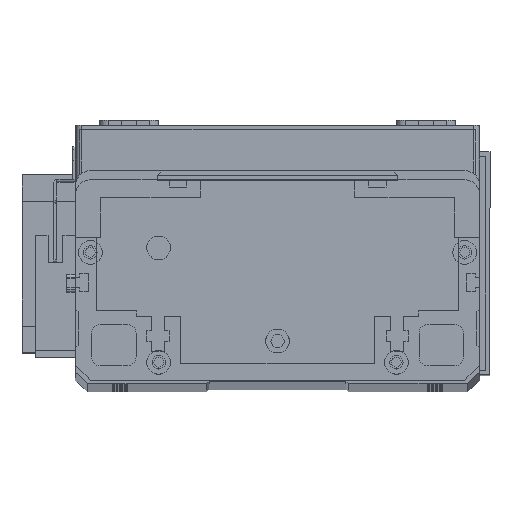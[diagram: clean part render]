
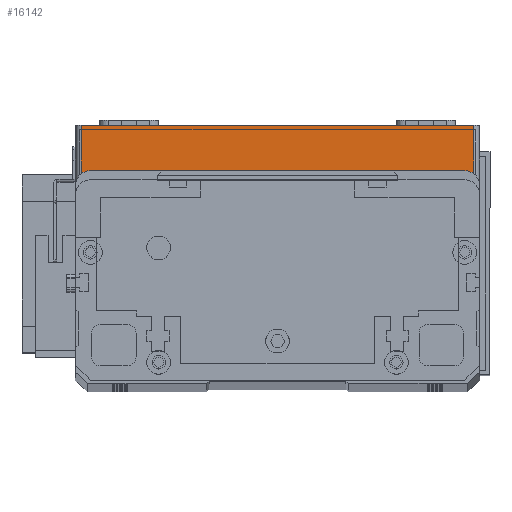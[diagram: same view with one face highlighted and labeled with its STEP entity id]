
A CAD part, top view. The second image highlights one B-rep face of the part: STEP entity #16142.
In plain terms, the highlighted planar face has unit normal (0, 0, 1) as drawn and (0, -1, 0) by its records, which use the part's own axes.
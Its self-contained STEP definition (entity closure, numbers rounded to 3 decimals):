
#610 = VECTOR ( 'NONE', #18226, 1000. ) ;
#734 = EDGE_CURVE ( 'NONE', #8018, #3186, #13002, .T. ) ;
#2384 = CARTESIAN_POINT ( 'NONE',  ( 134., 0., 0. ) ) ;
#2452 = CARTESIAN_POINT ( 'NONE',  ( 2., 0., 0. ) ) ;
#3186 = VERTEX_POINT ( 'NONE', #27288 ) ;
#4364 = LINE ( 'NONE', #6004, #27433 ) ;
#4997 = CARTESIAN_POINT ( 'NONE',  ( 2., 0., 19.5 ) ) ;
#6004 = CARTESIAN_POINT ( 'NONE',  ( 0., 0., 0. ) ) ;
#6678 = EDGE_LOOP ( 'NONE', ( #13416, #8823, #27564, #12067 ) ) ;
#8018 = VERTEX_POINT ( 'NONE', #4997 ) ;
#8219 = DIRECTION ( 'NONE',  ( 0., 0., -1. ) ) ;
#8264 = AXIS2_PLACEMENT_3D ( 'NONE', #25207, #11419, #27506 ) ;
#8285 = DIRECTION ( 'NONE',  ( 1., 0., 0. ) ) ;
#8318 = CARTESIAN_POINT ( 'NONE',  ( 2., 0., 19.5 ) ) ;
#8823 = ORIENTED_EDGE ( 'NONE', *, *, #13157, .T. ) ;
#9543 = DIRECTION ( 'NONE',  ( 1., 0., 0. ) ) ;
#9645 = CARTESIAN_POINT ( 'NONE',  ( 0., 0., 19.5 ) ) ;
#11419 = DIRECTION ( 'NONE',  ( 0., 1., 0. ) ) ;
#12067 = ORIENTED_EDGE ( 'NONE', *, *, #20895, .T. ) ;
#13002 = LINE ( 'NONE', #9645, #23838 ) ;
#13157 = EDGE_CURVE ( 'NONE', #8018, #28748, #29201, .T. ) ;
#13416 = ORIENTED_EDGE ( 'NONE', *, *, #734, .F. ) ;
#14024 = VERTEX_POINT ( 'NONE', #2384 ) ;
#15878 = CARTESIAN_POINT ( 'NONE',  ( 134., 0., 19.5 ) ) ;
#16142 = ADVANCED_FACE ( 'NONE', ( #28905 ), #22962, .F. ) ;
#17807 = EDGE_CURVE ( 'NONE', #28748, #14024, #4364, .T. ) ;
#18226 = DIRECTION ( 'NONE',  ( 0., 0., 1. ) ) ;
#19087 = LINE ( 'NONE', #15878, #610 ) ;
#20895 = EDGE_CURVE ( 'NONE', #14024, #3186, #19087, .T. ) ;
#22962 = PLANE ( 'NONE',  #8264 ) ;
#23838 = VECTOR ( 'NONE', #9543, 1000. ) ;
#25207 = CARTESIAN_POINT ( 'NONE',  ( 0., 0., 19.5 ) ) ;
#27288 = CARTESIAN_POINT ( 'NONE',  ( 134., 0., 19.5 ) ) ;
#27433 = VECTOR ( 'NONE', #8285, 1000. ) ;
#27506 = DIRECTION ( 'NONE',  ( 0., 0., 1. ) ) ;
#27564 = ORIENTED_EDGE ( 'NONE', *, *, #17807, .T. ) ;
#28501 = VECTOR ( 'NONE', #8219, 1000. ) ;
#28748 = VERTEX_POINT ( 'NONE', #2452 ) ;
#28905 = FACE_OUTER_BOUND ( 'NONE', #6678, .T. ) ;
#29201 = LINE ( 'NONE', #8318, #28501 ) ;
